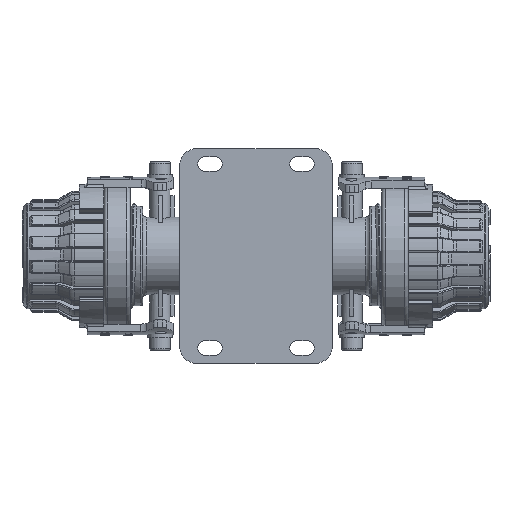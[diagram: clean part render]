
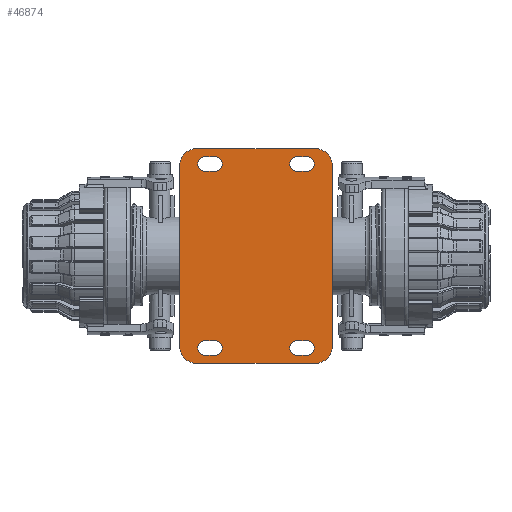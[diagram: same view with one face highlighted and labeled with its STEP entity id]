
A CAD part, front view. The second image highlights one B-rep face of the part: STEP entity #46874.
In plain terms, the highlighted planar face has unit normal (0, -1, 0).
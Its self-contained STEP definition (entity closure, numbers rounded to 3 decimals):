
#5379=LINE($,#92451,#8975);
#5385=LINE($,#92464,#8981);
#5390=LINE($,#92477,#8986);
#5393=LINE($,#92488,#8989);
#5398=LINE($,#92501,#8994);
#5399=LINE($,#92508,#8995);
#5405=LINE($,#92521,#9001);
#5410=LINE($,#92534,#9006);
#5413=LINE($,#92545,#9009);
#5418=LINE($,#92558,#9014);
#5422=LINE($,#92591,#9018);
#5423=LINE($,#92593,#9019);
#8975=VECTOR($,#64200,58.);
#8981=VECTOR($,#64208,5.);
#8986=VECTOR($,#64221,5.);
#8989=VECTOR($,#64232,5.);
#8994=VECTOR($,#64245,5.);
#8995=VECTOR($,#64254,58.);
#9001=VECTOR($,#64262,5.);
#9006=VECTOR($,#64275,5.);
#9009=VECTOR($,#64286,5.);
#9014=VECTOR($,#64299,5.);
#9018=VECTOR($,#64341,88.);
#9019=VECTOR($,#64344,88.);
#10351=PLANE($,#51568);
#10833=FACE_BOUND($,#16565,.T.);
#10834=FACE_BOUND($,#16566,.T.);
#10835=FACE_BOUND($,#16567,.T.);
#10836=FACE_BOUND($,#16568,.T.);
#13460=FACE_OUTER_BOUND($,#16564,.T.);
#16564=EDGE_LOOP($,(#43093,#43094,#43095,#43096,#43097,#43098,#43099,#43100));
#16565=EDGE_LOOP($,(#43101,#43102,#43103,#43104));
#16566=EDGE_LOOP($,(#43105,#43106,#43107,#43108));
#16567=EDGE_LOOP($,(#43109,#43110,#43111,#43112));
#16568=EDGE_LOOP($,(#43113,#43114,#43115,#43116));
#18865=CIRCLE($,#51523,3.5);
#18867=CIRCLE($,#51527,3.5);
#18869=CIRCLE($,#51531,3.5);
#18871=CIRCLE($,#51535,3.5);
#18873=CIRCLE($,#51540,3.5);
#18875=CIRCLE($,#51544,3.5);
#18877=CIRCLE($,#51548,3.5);
#18879=CIRCLE($,#51552,3.5);
#18883=CIRCLE($,#51560,8.5);
#18885=CIRCLE($,#51563,8.5);
#18887=CIRCLE($,#51566,8.5);
#18889=CIRCLE($,#51569,8.5);
#23190=VERTEX_POINT($,#92449);
#23191=VERTEX_POINT($,#92450);
#23196=VERTEX_POINT($,#92461);
#23197=VERTEX_POINT($,#92463);
#23199=VERTEX_POINT($,#92469);
#23201=VERTEX_POINT($,#92475);
#23204=VERTEX_POINT($,#92485);
#23205=VERTEX_POINT($,#92487);
#23207=VERTEX_POINT($,#92493);
#23209=VERTEX_POINT($,#92499);
#23210=VERTEX_POINT($,#92506);
#23211=VERTEX_POINT($,#92507);
#23216=VERTEX_POINT($,#92518);
#23217=VERTEX_POINT($,#92520);
#23219=VERTEX_POINT($,#92526);
#23221=VERTEX_POINT($,#92532);
#23224=VERTEX_POINT($,#92542);
#23225=VERTEX_POINT($,#92544);
#23227=VERTEX_POINT($,#92550);
#23229=VERTEX_POINT($,#92556);
#23233=VERTEX_POINT($,#92572);
#23235=VERTEX_POINT($,#92578);
#23237=VERTEX_POINT($,#92584);
#23239=VERTEX_POINT($,#92590);
#29836=EDGE_CURVE($,#23190,#23191,#5379,.T.);
#29842=EDGE_CURVE($,#23197,#23196,#5385,.T.);
#29846=EDGE_CURVE($,#23196,#23199,#18865,.T.);
#29849=EDGE_CURVE($,#23199,#23201,#5390,.T.);
#29851=EDGE_CURVE($,#23201,#23197,#18867,.T.);
#29854=EDGE_CURVE($,#23205,#23204,#5393,.T.);
#29858=EDGE_CURVE($,#23204,#23207,#18869,.T.);
#29861=EDGE_CURVE($,#23207,#23209,#5398,.T.);
#29863=EDGE_CURVE($,#23209,#23205,#18871,.T.);
#29864=EDGE_CURVE($,#23210,#23211,#5399,.T.);
#29870=EDGE_CURVE($,#23217,#23216,#5405,.T.);
#29874=EDGE_CURVE($,#23216,#23219,#18873,.T.);
#29877=EDGE_CURVE($,#23219,#23221,#5410,.T.);
#29879=EDGE_CURVE($,#23221,#23217,#18875,.T.);
#29882=EDGE_CURVE($,#23225,#23224,#5413,.T.);
#29886=EDGE_CURVE($,#23224,#23227,#18877,.T.);
#29889=EDGE_CURVE($,#23227,#23229,#5418,.T.);
#29891=EDGE_CURVE($,#23229,#23225,#18879,.T.);
#29895=EDGE_CURVE($,#23233,#23190,#18883,.T.);
#29898=EDGE_CURVE($,#23211,#23235,#18885,.T.);
#29901=EDGE_CURVE($,#23237,#23210,#18887,.T.);
#29904=EDGE_CURVE($,#23239,#23237,#5422,.T.);
#29905=EDGE_CURVE($,#23191,#23239,#18889,.T.);
#29906=EDGE_CURVE($,#23235,#23233,#5423,.T.);
#43093=ORIENTED_EDGE($,*,*,#29904,.F.);
#43094=ORIENTED_EDGE($,*,*,#29905,.F.);
#43095=ORIENTED_EDGE($,*,*,#29836,.F.);
#43096=ORIENTED_EDGE($,*,*,#29895,.F.);
#43097=ORIENTED_EDGE($,*,*,#29906,.F.);
#43098=ORIENTED_EDGE($,*,*,#29898,.F.);
#43099=ORIENTED_EDGE($,*,*,#29864,.F.);
#43100=ORIENTED_EDGE($,*,*,#29901,.F.);
#43101=ORIENTED_EDGE($,*,*,#29889,.T.);
#43102=ORIENTED_EDGE($,*,*,#29891,.T.);
#43103=ORIENTED_EDGE($,*,*,#29882,.T.);
#43104=ORIENTED_EDGE($,*,*,#29886,.T.);
#43105=ORIENTED_EDGE($,*,*,#29861,.T.);
#43106=ORIENTED_EDGE($,*,*,#29863,.T.);
#43107=ORIENTED_EDGE($,*,*,#29854,.T.);
#43108=ORIENTED_EDGE($,*,*,#29858,.T.);
#43109=ORIENTED_EDGE($,*,*,#29877,.T.);
#43110=ORIENTED_EDGE($,*,*,#29879,.T.);
#43111=ORIENTED_EDGE($,*,*,#29870,.T.);
#43112=ORIENTED_EDGE($,*,*,#29874,.T.);
#43113=ORIENTED_EDGE($,*,*,#29849,.T.);
#43114=ORIENTED_EDGE($,*,*,#29851,.T.);
#43115=ORIENTED_EDGE($,*,*,#29842,.T.);
#43116=ORIENTED_EDGE($,*,*,#29846,.T.);
#46874=ADVANCED_FACE($,(#13460,#10833,#10834,#10835,#10836),#10351,.F.);
#51523=AXIS2_PLACEMENT_3D($,#92471,#64215,#64216);
#51527=AXIS2_PLACEMENT_3D($,#92480,#64226,#64227);
#51531=AXIS2_PLACEMENT_3D($,#92495,#64239,#64240);
#51535=AXIS2_PLACEMENT_3D($,#92504,#64250,#64251);
#51540=AXIS2_PLACEMENT_3D($,#92528,#64269,#64270);
#51544=AXIS2_PLACEMENT_3D($,#92537,#64280,#64281);
#51548=AXIS2_PLACEMENT_3D($,#92552,#64293,#64294);
#51552=AXIS2_PLACEMENT_3D($,#92561,#64304,#64305);
#51560=AXIS2_PLACEMENT_3D($,#92573,#64320,#64321);
#51563=AXIS2_PLACEMENT_3D($,#92579,#64327,#64328);
#51566=AXIS2_PLACEMENT_3D($,#92585,#64334,#64335);
#51568=AXIS2_PLACEMENT_3D($,#92589,#64339,#64340);
#51569=AXIS2_PLACEMENT_3D($,#92592,#64342,#64343);
#64200=DIRECTION($,(-1.,0.,0.));
#64208=DIRECTION($,(1.,0.,0.));
#64215=DIRECTION('center_axis',(0.,1.,0.));
#64216=DIRECTION('ref_axis',(0.,0.,1.));
#64221=DIRECTION($,(-1.,0.,0.));
#64226=DIRECTION('center_axis',(0.,1.,0.));
#64227=DIRECTION('ref_axis',(0.,0.,1.));
#64232=DIRECTION($,(1.,0.,0.));
#64239=DIRECTION('center_axis',(0.,1.,0.));
#64240=DIRECTION('ref_axis',(0.,0.,-1.));
#64245=DIRECTION($,(-1.,0.,0.));
#64250=DIRECTION('center_axis',(0.,1.,0.));
#64251=DIRECTION('ref_axis',(0.,0.,-1.));
#64254=DIRECTION($,(1.,0.,0.));
#64262=DIRECTION($,(-1.,0.,0.));
#64269=DIRECTION('center_axis',(0.,1.,0.));
#64270=DIRECTION('ref_axis',(0.,0.,1.));
#64275=DIRECTION($,(1.,0.,0.));
#64280=DIRECTION('center_axis',(0.,1.,0.));
#64281=DIRECTION('ref_axis',(0.,0.,1.));
#64286=DIRECTION($,(-1.,0.,0.));
#64293=DIRECTION('center_axis',(0.,1.,0.));
#64294=DIRECTION('ref_axis',(0.,0.,-1.));
#64299=DIRECTION($,(1.,0.,0.));
#64304=DIRECTION('center_axis',(0.,1.,0.));
#64305=DIRECTION('ref_axis',(0.,0.,-1.));
#64320=DIRECTION('center_axis',(0.,1.,0.));
#64321=DIRECTION('ref_axis',(0.,0.,1.));
#64327=DIRECTION('center_axis',(0.,1.,0.));
#64328=DIRECTION('ref_axis',(0.,0.,-1.));
#64334=DIRECTION('center_axis',(0.,1.,0.));
#64335=DIRECTION('ref_axis',(0.,0.,-1.));
#64339=DIRECTION('center_axis',(0.,1.,0.));
#64340=DIRECTION('ref_axis',(0.,0.,1.));
#64341=DIRECTION($,(0.,0.,1.));
#64342=DIRECTION('center_axis',(0.,1.,0.));
#64343=DIRECTION('ref_axis',(0.,0.,1.));
#64344=DIRECTION($,(0.,0.,-1.));
#92449=CARTESIAN_POINT('',(29.,0.,-52.5));
#92450=CARTESIAN_POINT('',(-29.,0.,-52.5));
#92451=CARTESIAN_POINT($,(29.,0.,-52.5));
#92461=CARTESIAN_POINT('',(-20.,0.,-41.5));
#92463=CARTESIAN_POINT('',(-25.,0.,-41.5));
#92464=CARTESIAN_POINT($,(-25.,0.,-41.5));
#92469=CARTESIAN_POINT('',(-20.,0.,-48.5));
#92471=CARTESIAN_POINT('Origin',(-20.,0.,-45.));
#92475=CARTESIAN_POINT('',(-25.,0.,-48.5));
#92477=CARTESIAN_POINT($,(-20.,0.,-48.5));
#92480=CARTESIAN_POINT('Origin',(-25.,0.,-45.));
#92485=CARTESIAN_POINT('',(25.,0.,-41.5));
#92487=CARTESIAN_POINT('',(20.,0.,-41.5));
#92488=CARTESIAN_POINT($,(20.,0.,-41.5));
#92493=CARTESIAN_POINT('',(25.,0.,-48.5));
#92495=CARTESIAN_POINT('Origin',(25.,0.,-45.));
#92499=CARTESIAN_POINT('',(20.,0.,-48.5));
#92501=CARTESIAN_POINT($,(25.,0.,-48.5));
#92504=CARTESIAN_POINT('Origin',(20.,0.,-45.));
#92506=CARTESIAN_POINT('',(-29.,0.,52.5));
#92507=CARTESIAN_POINT('',(29.,0.,52.5));
#92508=CARTESIAN_POINT($,(-29.,0.,52.5));
#92518=CARTESIAN_POINT('',(20.,0.,41.5));
#92520=CARTESIAN_POINT('',(25.,0.,41.5));
#92521=CARTESIAN_POINT($,(25.,0.,41.5));
#92526=CARTESIAN_POINT('',(20.,0.,48.5));
#92528=CARTESIAN_POINT('Origin',(20.,0.,45.));
#92532=CARTESIAN_POINT('',(25.,0.,48.5));
#92534=CARTESIAN_POINT($,(20.,0.,48.5));
#92537=CARTESIAN_POINT('Origin',(25.,0.,45.));
#92542=CARTESIAN_POINT('',(-25.,0.,41.5));
#92544=CARTESIAN_POINT('',(-20.,0.,41.5));
#92545=CARTESIAN_POINT($,(-20.,0.,41.5));
#92550=CARTESIAN_POINT('',(-25.,0.,48.5));
#92552=CARTESIAN_POINT('Origin',(-25.,0.,45.));
#92556=CARTESIAN_POINT('',(-20.,0.,48.5));
#92558=CARTESIAN_POINT($,(-25.,0.,48.5));
#92561=CARTESIAN_POINT('Origin',(-20.,0.,45.));
#92572=CARTESIAN_POINT('',(37.5,0.,-44.));
#92573=CARTESIAN_POINT('Origin',(29.,0.,-44.));
#92578=CARTESIAN_POINT('',(37.5,0.,44.));
#92579=CARTESIAN_POINT('Origin',(29.,0.,44.));
#92584=CARTESIAN_POINT('',(-37.5,0.,44.));
#92585=CARTESIAN_POINT('Origin',(-29.,0.,44.));
#92589=CARTESIAN_POINT('Origin',(-29.,0.,-29.));
#92590=CARTESIAN_POINT('',(-37.5,0.,-44.));
#92591=CARTESIAN_POINT($,(-37.5,0.,-44.));
#92592=CARTESIAN_POINT('Origin',(-29.,0.,-44.));
#92593=CARTESIAN_POINT($,(37.5,0.,44.));
